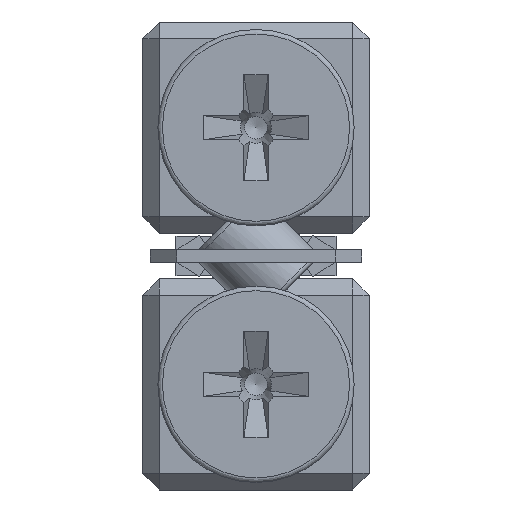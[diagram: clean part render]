
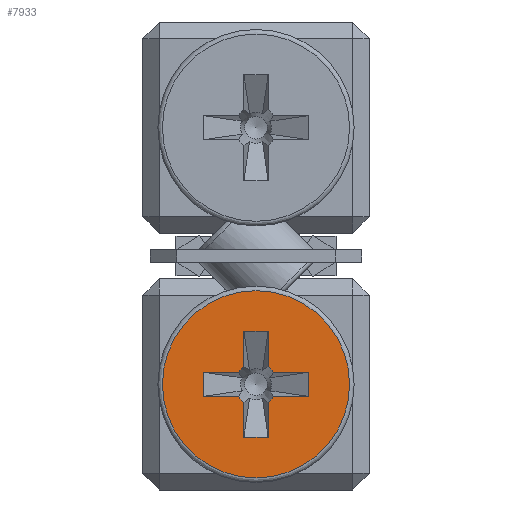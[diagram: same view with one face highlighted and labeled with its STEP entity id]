
A CAD part, left-side view. The second image highlights one B-rep face of the part: STEP entity #7933.
In plain terms, the highlighted planar face has unit normal (-1, 0, 0).
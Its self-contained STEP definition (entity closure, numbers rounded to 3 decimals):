
#249 = DIRECTION ( 'NONE',  ( -1., 0., 0. ) ) ;
#967 = VERTEX_POINT ( 'NONE', #12229 ) ;
#1042 = CARTESIAN_POINT ( 'NONE',  ( -127., 0., 7. ) ) ;
#1247 = DIRECTION ( 'NONE',  ( -1., 0., 0. ) ) ;
#1271 = CARTESIAN_POINT ( 'NONE',  ( -127., 3.5, 7.8 ) ) ;
#1293 = VERTEX_POINT ( 'NONE', #4447 ) ;
#1317 = VERTEX_POINT ( 'NONE', #5746 ) ;
#1366 = DIRECTION ( 'NONE',  ( 0., 0., -1. ) ) ;
#1392 = VERTEX_POINT ( 'NONE', #1498 ) ;
#1498 = CARTESIAN_POINT ( 'NONE',  ( -127., -3.5, 7.8 ) ) ;
#1583 = CARTESIAN_POINT ( 'NONE',  ( -127., -3.5, 6.2 ) ) ;
#1593 = CARTESIAN_POINT ( 'NONE',  ( -127., 0., 7. ) ) ;
#1693 = VERTEX_POINT ( 'NONE', #4954 ) ;
#1721 = CARTESIAN_POINT ( 'NONE',  ( -127., -0.8, 10.5 ) ) ;
#1798 = VECTOR ( 'NONE', #8109, 1000. ) ;
#1821 = CIRCLE ( 'NONE', #10516, 6.2 ) ;
#1866 = DIRECTION ( 'NONE',  ( -1., 0., 0. ) ) ;
#1932 = CARTESIAN_POINT ( 'NONE',  ( -127., -3.5, 6.2 ) ) ;
#1947 = LINE ( 'NONE', #6112, #7203 ) ;
#1991 = AXIS2_PLACEMENT_3D ( 'NONE', #6019, #10173, #11202 ) ;
#2021 = ORIENTED_EDGE ( 'NONE', *, *, #7552, .T. ) ;
#2024 = DIRECTION ( 'NONE',  ( 0., -1., 0. ) ) ;
#2033 = VECTOR ( 'NONE', #2237, 1000. ) ;
#2237 = DIRECTION ( 'NONE',  ( 0., 0., -1. ) ) ;
#2345 = CARTESIAN_POINT ( 'NONE',  ( -127., -0.8, 10.5 ) ) ;
#2358 = EDGE_CURVE ( 'NONE', #10790, #10790, #1821, .T. ) ;
#2384 = FACE_BOUND ( 'NONE', #4258, .T. ) ;
#2465 = ORIENTED_EDGE ( 'NONE', *, *, #6489, .T. ) ;
#2535 = LINE ( 'NONE', #1583, #3294 ) ;
#2605 = DIRECTION ( 'NONE',  ( 0., 0., -1. ) ) ;
#2720 = ORIENTED_EDGE ( 'NONE', *, *, #11114, .F. ) ;
#2742 = EDGE_CURVE ( 'NONE', #9086, #2891, #10534, .T. ) ;
#2748 = ORIENTED_EDGE ( 'NONE', *, *, #2742, .F. ) ;
#2816 = LINE ( 'NONE', #1721, #2834 ) ;
#2817 = DIRECTION ( 'NONE',  ( 0., 0., 1. ) ) ;
#2834 = VECTOR ( 'NONE', #10239, 1000. ) ;
#2847 = CARTESIAN_POINT ( 'NONE',  ( -127., 3.5, 7.8 ) ) ;
#2891 = VERTEX_POINT ( 'NONE', #4818 ) ;
#3134 = EDGE_CURVE ( 'NONE', #9267, #1317, #10742, .T. ) ;
#3294 = VECTOR ( 'NONE', #9695, 1000. ) ;
#3296 = CIRCLE ( 'NONE', #8520, 1.42 ) ;
#3351 = LINE ( 'NONE', #6348, #10440 ) ;
#3514 = VECTOR ( 'NONE', #5485, 1000. ) ;
#3710 = LINE ( 'NONE', #2345, #3514 ) ;
#4056 = LINE ( 'NONE', #1932, #12661 ) ;
#4068 = VERTEX_POINT ( 'NONE', #10150 ) ;
#4103 = ORIENTED_EDGE ( 'NONE', *, *, #9516, .F. ) ;
#4258 = EDGE_LOOP ( 'NONE', ( #11411, #8384, #7522, #2021, #8161, #2465, #8173, #5551, #9013, #5975, #4103, #4328, #2748, #6488, #2720, #13040 ) ) ;
#4301 = VERTEX_POINT ( 'NONE', #9654 ) ;
#4328 = ORIENTED_EDGE ( 'NONE', *, *, #7499, .T. ) ;
#4446 = PLANE ( 'NONE',  #10240 ) ;
#4447 = CARTESIAN_POINT ( 'NONE',  ( -127., 1.173, 6.2 ) ) ;
#4617 = DIRECTION ( 'NONE',  ( 0., 0., 1. ) ) ;
#4731 = EDGE_CURVE ( 'NONE', #1293, #12059, #13079, .T. ) ;
#4818 = CARTESIAN_POINT ( 'NONE',  ( -127., -0.8, 8.173 ) ) ;
#4954 = CARTESIAN_POINT ( 'NONE',  ( -127., 0.8, 8.173 ) ) ;
#5113 = CARTESIAN_POINT ( 'NONE',  ( -127., 3.5, 6.2 ) ) ;
#5485 = DIRECTION ( 'NONE',  ( 0., 1., 0. ) ) ;
#5551 = ORIENTED_EDGE ( 'NONE', *, *, #3134, .T. ) ;
#5569 = DIRECTION ( 'NONE',  ( 0., -1., 0. ) ) ;
#5610 = CARTESIAN_POINT ( 'NONE',  ( -127., 0., 0.8 ) ) ;
#5675 = EDGE_CURVE ( 'NONE', #4068, #12186, #1947, .T. ) ;
#5684 = LINE ( 'NONE', #12987, #6104 ) ;
#5691 = EDGE_LOOP ( 'NONE', ( #10299 ) ) ;
#5746 = CARTESIAN_POINT ( 'NONE',  ( -127., 1.173, 7.8 ) ) ;
#5815 = LINE ( 'NONE', #9965, #7232 ) ;
#5890 = DIRECTION ( 'NONE',  ( 0., 1., 0. ) ) ;
#5952 = DIRECTION ( 'NONE',  ( 0., 1., 0. ) ) ;
#5975 = ORIENTED_EDGE ( 'NONE', *, *, #7726, .T. ) ;
#6019 = CARTESIAN_POINT ( 'NONE',  ( -127., 0., 7. ) ) ;
#6070 = CARTESIAN_POINT ( 'NONE',  ( -127., -0.8, 10.5 ) ) ;
#6104 = VECTOR ( 'NONE', #2605, 1000. ) ;
#6112 = CARTESIAN_POINT ( 'NONE',  ( -127., 0.8, 3.5 ) ) ;
#6348 = CARTESIAN_POINT ( 'NONE',  ( -127., 0.8, 3.5 ) ) ;
#6488 = ORIENTED_EDGE ( 'NONE', *, *, #6910, .T. ) ;
#6489 = EDGE_CURVE ( 'NONE', #1293, #8946, #5815, .T. ) ;
#6910 = EDGE_CURVE ( 'NONE', #9086, #1392, #7204, .T. ) ;
#7203 = VECTOR ( 'NONE', #2024, 1000. ) ;
#7204 = LINE ( 'NONE', #2847, #1798 ) ;
#7232 = VECTOR ( 'NONE', #5952, 1000. ) ;
#7325 = CARTESIAN_POINT ( 'NONE',  ( -127., -0.8, 3.5 ) ) ;
#7499 = EDGE_CURVE ( 'NONE', #8021, #2891, #5684, .T. ) ;
#7522 = ORIENTED_EDGE ( 'NONE', *, *, #5675, .F. ) ;
#7545 = CARTESIAN_POINT ( 'NONE',  ( -127., 3.5, 7.8 ) ) ;
#7552 = EDGE_CURVE ( 'NONE', #4068, #12059, #10859, .T. ) ;
#7569 = EDGE_CURVE ( 'NONE', #9805, #12186, #2816, .T. ) ;
#7577 = FACE_OUTER_BOUND ( 'NONE', #5691, .T. ) ;
#7726 = EDGE_CURVE ( 'NONE', #1693, #4301, #3351, .T. ) ;
#7933 = ADVANCED_FACE ( 'NONE', ( #7577, #2384 ), #4446, .F. ) ;
#8021 = VERTEX_POINT ( 'NONE', #6070 ) ;
#8109 = DIRECTION ( 'NONE',  ( 0., -1., 0. ) ) ;
#8161 = ORIENTED_EDGE ( 'NONE', *, *, #4731, .F. ) ;
#8173 = ORIENTED_EDGE ( 'NONE', *, *, #13186, .F. ) ;
#8379 = LINE ( 'NONE', #1271, #2033 ) ;
#8384 = ORIENTED_EDGE ( 'NONE', *, *, #7569, .T. ) ;
#8478 = CARTESIAN_POINT ( 'NONE',  ( -127., -3.5, 6.2 ) ) ;
#8520 = AXIS2_PLACEMENT_3D ( 'NONE', #1042, #1247, #11485 ) ;
#8660 = DIRECTION ( 'NONE',  ( -1., 0., 0. ) ) ;
#8716 = AXIS2_PLACEMENT_3D ( 'NONE', #1593, #1866, #2817 ) ;
#8859 = CARTESIAN_POINT ( 'NONE',  ( -127., 0., 7. ) ) ;
#8946 = VERTEX_POINT ( 'NONE', #5113 ) ;
#9013 = ORIENTED_EDGE ( 'NONE', *, *, #9419, .F. ) ;
#9086 = VERTEX_POINT ( 'NONE', #11441 ) ;
#9161 = CARTESIAN_POINT ( 'NONE',  ( -127., 0.8, 5.827 ) ) ;
#9267 = VERTEX_POINT ( 'NONE', #10139 ) ;
#9290 = DIRECTION ( 'NONE',  ( 0., 0., 1. ) ) ;
#9372 = VERTEX_POINT ( 'NONE', #8478 ) ;
#9419 = EDGE_CURVE ( 'NONE', #1693, #1317, #3296, .T. ) ;
#9516 = EDGE_CURVE ( 'NONE', #8021, #4301, #3710, .T. ) ;
#9605 = CIRCLE ( 'NONE', #1991, 1.42 ) ;
#9654 = CARTESIAN_POINT ( 'NONE',  ( -127., 0.8, 10.5 ) ) ;
#9695 = DIRECTION ( 'NONE',  ( 0., 0., 1. ) ) ;
#9805 = VERTEX_POINT ( 'NONE', #10515 ) ;
#9808 = DIRECTION ( 'NONE',  ( 0., 0., -1. ) ) ;
#9965 = CARTESIAN_POINT ( 'NONE',  ( -127., -3.5, 6.2 ) ) ;
#10139 = CARTESIAN_POINT ( 'NONE',  ( -127., 3.5, 7.8 ) ) ;
#10150 = CARTESIAN_POINT ( 'NONE',  ( -127., 0.8, 3.5 ) ) ;
#10173 = DIRECTION ( 'NONE',  ( -1., 0., 0. ) ) ;
#10239 = DIRECTION ( 'NONE',  ( 0., 0., -1. ) ) ;
#10240 = AXIS2_PLACEMENT_3D ( 'NONE', #12899, #12771, #1366 ) ;
#10299 = ORIENTED_EDGE ( 'NONE', *, *, #2358, .T. ) ;
#10440 = VECTOR ( 'NONE', #9290, 1000. ) ;
#10515 = CARTESIAN_POINT ( 'NONE',  ( -127., -0.8, 5.827 ) ) ;
#10516 = AXIS2_PLACEMENT_3D ( 'NONE', #8859, #8660, #9808 ) ;
#10534 = CIRCLE ( 'NONE', #11621, 1.42 ) ;
#10742 = LINE ( 'NONE', #7545, #13161 ) ;
#10790 = VERTEX_POINT ( 'NONE', #5610 ) ;
#10847 = EDGE_CURVE ( 'NONE', #9372, #967, #4056, .T. ) ;
#10859 = LINE ( 'NONE', #12302, #12851 ) ;
#11114 = EDGE_CURVE ( 'NONE', #9372, #1392, #2535, .T. ) ;
#11202 = DIRECTION ( 'NONE',  ( 0., 0., 1. ) ) ;
#11214 = EDGE_CURVE ( 'NONE', #9805, #967, #9605, .T. ) ;
#11329 = DIRECTION ( 'NONE',  ( 0., 0., 1. ) ) ;
#11411 = ORIENTED_EDGE ( 'NONE', *, *, #11214, .F. ) ;
#11441 = CARTESIAN_POINT ( 'NONE',  ( -127., -1.173, 7.8 ) ) ;
#11485 = DIRECTION ( 'NONE',  ( 0., 0., 1. ) ) ;
#11621 = AXIS2_PLACEMENT_3D ( 'NONE', #11649, #249, #4617 ) ;
#11649 = CARTESIAN_POINT ( 'NONE',  ( -127., 0., 7. ) ) ;
#12059 = VERTEX_POINT ( 'NONE', #9161 ) ;
#12186 = VERTEX_POINT ( 'NONE', #7325 ) ;
#12229 = CARTESIAN_POINT ( 'NONE',  ( -127., -1.173, 6.2 ) ) ;
#12302 = CARTESIAN_POINT ( 'NONE',  ( -127., 0.8, 3.5 ) ) ;
#12661 = VECTOR ( 'NONE', #5890, 1000. ) ;
#12771 = DIRECTION ( 'NONE',  ( 1., 0., 0. ) ) ;
#12851 = VECTOR ( 'NONE', #11329, 1000. ) ;
#12899 = CARTESIAN_POINT ( 'NONE',  ( -127., 6.5, 7. ) ) ;
#12987 = CARTESIAN_POINT ( 'NONE',  ( -127., -0.8, 10.5 ) ) ;
#13040 = ORIENTED_EDGE ( 'NONE', *, *, #10847, .T. ) ;
#13079 = CIRCLE ( 'NONE', #8716, 1.42 ) ;
#13161 = VECTOR ( 'NONE', #5569, 1000. ) ;
#13186 = EDGE_CURVE ( 'NONE', #9267, #8946, #8379, .T. ) ;
